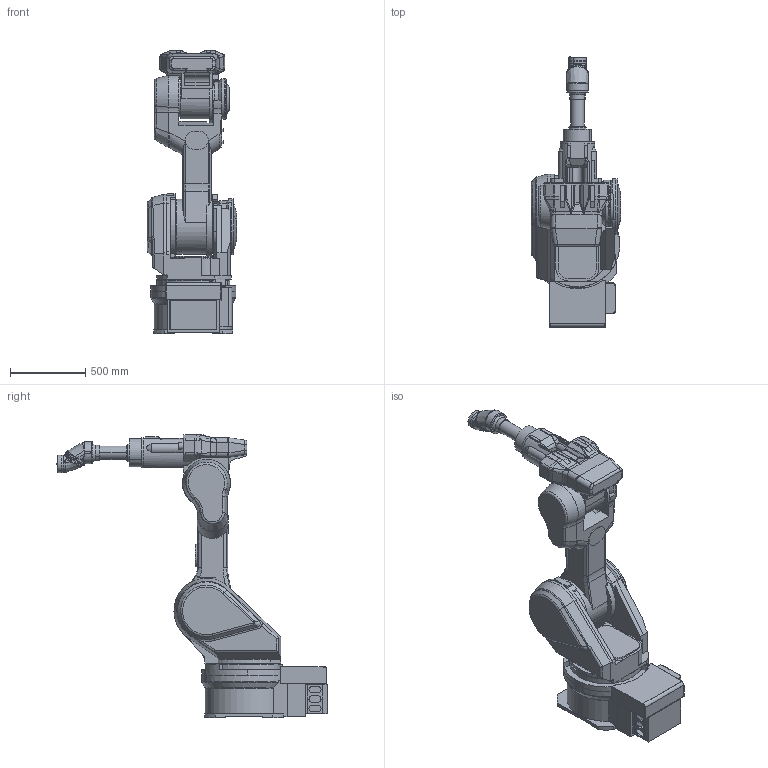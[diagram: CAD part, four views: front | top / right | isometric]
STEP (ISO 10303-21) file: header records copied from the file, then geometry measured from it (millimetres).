
FILE_DESCRIPTION(('CATIA V5 STEP Exchange'),'2;1');
FILE_NAME('G:\【K-ROSET】\K-ROSET_モデル\ロボット\※ロボット\※K\KF\［K］シリーズ軽量過程とデータ_090302\KF193_A001_090210~\Product1.stp','2013-11-06T06:05:52+00:00',('none'),('none'),'CATIA Version 5 Release 20 SP 4 (IN-10)','CATIA V5 STEP AP203','none');
FILE_SCHEMA(('CONFIG_CONTROL_DESIGN'));
Products named in the file (1): KF193_ASSY
Assembly tree (7 placements, depth 2):
  KF193_ASSY
    #58
    #4932
    #11086
    #17698
    #32171
    #36265
    #41476
Bounding box: 596 x 1794.5 x 1883 mm (x, y, z)
Surface area: 7202558.3 mm2 (no closed solid volume)
Topology: 0 solids, 8 shells, 939 faces, 2485 edges, 1592 vertices
Faces by surface type: plane 422, cylinder 296, bspline 149, torus 40, cone 24, extrusion 4, sphere 4
Entity records: 41852 total; most frequent: CARTESIAN_POINT 20603, ORIENTED_EDGE 4952, DIRECTION 3270, EDGE_CURVE 2476, VERTEX_POINT 1587, VECTOR 1307, LINE 1303, AXIS2_PLACEMENT_3D 1291
